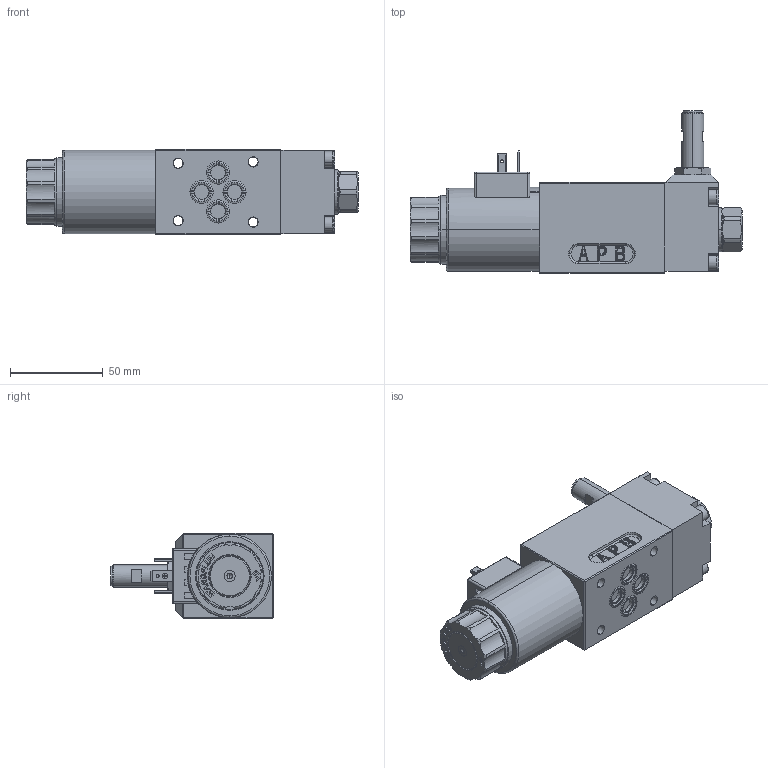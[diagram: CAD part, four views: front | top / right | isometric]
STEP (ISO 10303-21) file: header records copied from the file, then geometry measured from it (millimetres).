
FILE_DESCRIPTION (( 'STEP AP214' ), '1' );
FILE_NAME ('WDMFA06-4_2-Aside-Z482,Z603,Z680.STEP', '2019-08-12T13:56:48', ( '' ), ( '' ), 'SwSTEP 2.0', 'SolidWorks 2018', '' );
FILE_SCHEMA (( 'AUTOMOTIVE_DESIGN' ));
Length unit declared in the file: millimetre
Products named in the file (1): WDMFA06-4_2-Aside-Z482,Z603,Z680
Bounding box: 179.3 x 87.8 x 46 mm (x, y, z)
Volume: 326475.3 mm3; surface area: 48968.9 mm2
Topology: 9 solids, 16 shells, 1715 faces, 4631 edges, 2990 vertices
Faces by surface type: plane 810, cylinder 643, cone 105, bspline 89, torus 46, sphere 22
Entity records: 76156 total; most frequent: CARTESIAN_POINT 14134, ORIENTED_EDGE 9196, DIRECTION 8962, EDGE_CURVE 4598, AXIS2_PLACEMENT_3D 3215, VERTEX_POINT 2990, LINE 2532, VECTOR 2532
